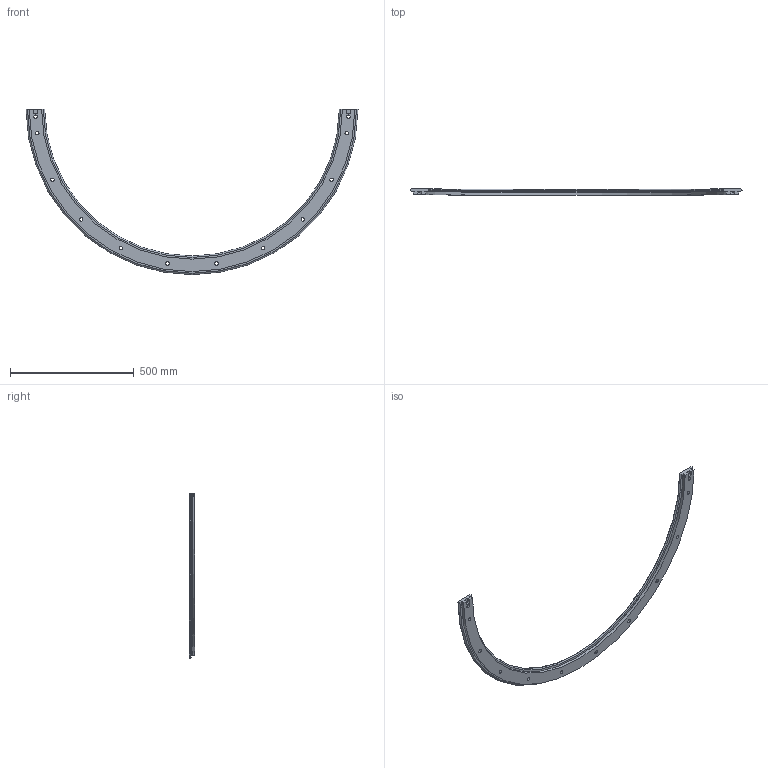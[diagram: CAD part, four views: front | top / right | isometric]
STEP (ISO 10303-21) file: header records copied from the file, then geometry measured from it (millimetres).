
FILE_DESCRIPTION( ( 'STEP AP203' ), '1' );
FILE_NAME( 'p:/temp/worker_31/temp/exporttempdir_2456_246_6miaq/format_0/TR76 1267 R180.stp', '2021-09-17T07:42:02', ( 'License CC BY-ND 4.0' ), ( 'CADENAS' ), ' ', 'PARTsolutions', ' ' );
FILE_SCHEMA( ( 'CONFIG_CONTROL_DESIGN' ) );
Length unit declared in the file: millimetre
Products named in the file (1): _TR76 1267 R180
Bounding box: 1342.6 x 24 x 668.8 mm (x, y, z)
Volume: 2636926.1 mm3; surface area: 418473.1 mm2
Topology: 1 solids, 1 shells, 98 faces, 231 edges, 155 vertices
Faces by surface type: plane 58, cylinder 34, cone 4, torus 2
Full cylindrical faces by diameter (mm): 8 x4, 14 x12, 20 x12
Entity records: 3048 total; most frequent: CARTESIAN_POINT 772, DIRECTION 454, ORIENTED_EDGE 400, EDGE_CURVE 200, AXIS2_PLACEMENT_3D 171, EDGE_LOOP 170, VERTEX_POINT 153, FACE_OUTER_BOUND 126
